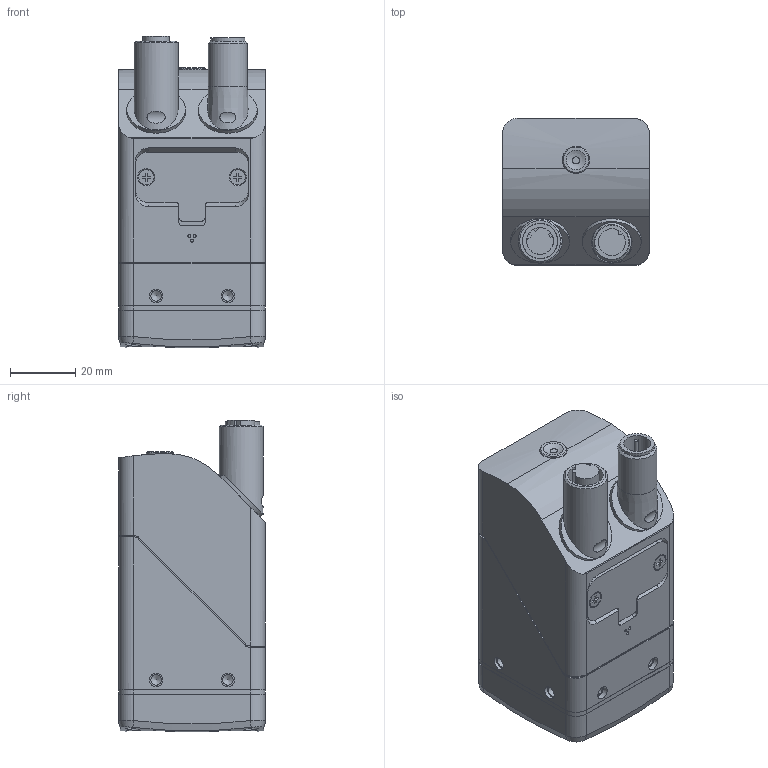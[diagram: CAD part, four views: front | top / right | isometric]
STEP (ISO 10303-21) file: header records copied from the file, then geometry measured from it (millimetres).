
FILE_DESCRIPTION( ( 'STEP AP203' ), '1' );
FILE_NAME( 'p:/temp/worker_70/temp/exporttempdir_3912_285_TYuhD/format_1/O2D500.stp', '2022-02-09T10:05:14', ( 'License CC BY-ND 4.0' ), ( 'CADENAS' ), ' ', 'PARTsolutions', ' ' );
FILE_SCHEMA( ( 'CONFIG_CONTROL_DESIGN' ) );
Length unit declared in the file: millimetre
Products named in the file (1): _O2D500
Bounding box: 45 x 45 x 95.57 mm (x, y, z)
Volume: 163898.3 mm3; surface area: 22765.4 mm2
Topology: 1 solids, 1 shells, 302 faces, 717 edges, 469 vertices
Faces by surface type: plane 159, cylinder 101, cone 36, bspline 4, sphere 2
Full cylindrical faces by diameter (mm): 0.9 x3, 2.5 x4, 2.93 x4, 3.1 x4, 3.242 x8, 4.1 x8, 4.28 x4, 4.4 x4, 4.7 x2, 8.2 x1, 8.3 x1, 8.35 x1, 9.5 x1, 10.5 x1, 10.7 x1, 10.917 x1, 12 x1, 13.5 x1, 17.989 x2
Entity records: 8857 total; most frequent: CARTESIAN_POINT 2168, DIRECTION 1406, ORIENTED_EDGE 1218, EDGE_CURVE 609, AXIS2_PLACEMENT_3D 541, VERTEX_POINT 448, EDGE_LOOP 433, FACE_OUTER_BOUND 355
